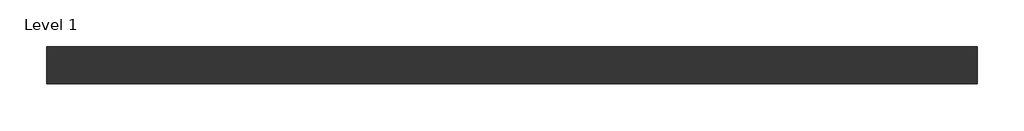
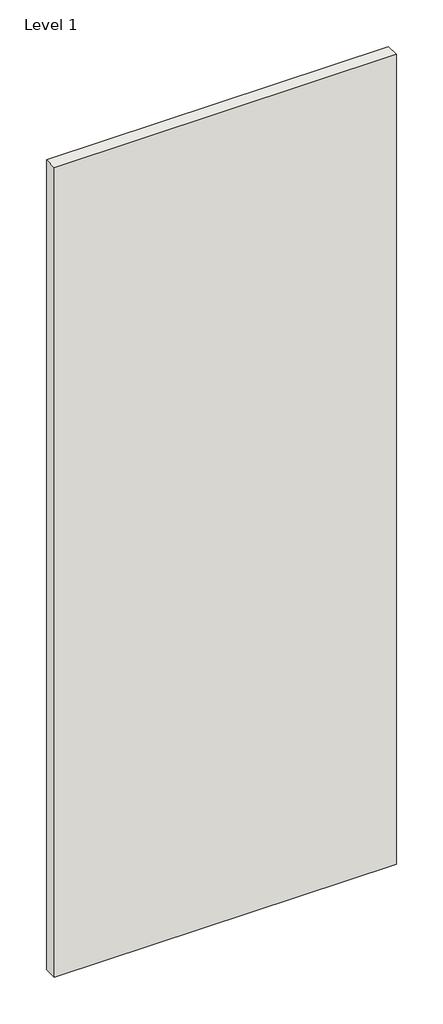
# One storey: 1 wall.
"""IFC4 building model written with IfcOpenShell, lengths in millimetres."""

import ifcopenshell
import ifcopenshell.guid

model = None  # the IFC model being written
_history = None  # IfcOwnerHistory: only IFC2X3 demands one
_inside = {}  # id of a spatial element -> (the spatial element, [elements in it])
_under = {}  # id of a project, library or spatial element -> (it, [spatial elements below it])
_declared = {}  # id of a project -> (the project, [libraries it declares])
_typed = {}  # id of a type object -> (the type object, [elements of that type])
_made_of = {}  # id of a material, layer set ... -> (it, [elements and type objects made of it])


def new_model(schema):
    """Start an empty IFC model of exactly this schema.

    Asked for "IFC4X3", IfcOpenShell would pick the latest addendum, in which some entities
    have other attributes; the version numbers below select the first issue.
    IFC2X3 requires an IfcOwnerHistory on every rooted entity: one is made here for all.
    """
    global model, _history
    if schema == "IFC4X3":
        model = ifcopenshell.file(schema_version=(4, 3, 0, 0))
    else:
        model = ifcopenshell.file(schema=schema)
    _inside.clear()
    _under.clear()
    _declared.clear()
    _typed.clear()
    _made_of.clear()
    _history = None
    if model.schema == "IFC2X3":
        org = make("IfcOrganization", Name="unknown")
        user = make(
            "IfcPersonAndOrganization",
            ThePerson=make("IfcPerson", FamilyName="unknown"),
            TheOrganization=org,
        )
        app = make(
            "IfcApplication",
            ApplicationDeveloper=org,
            Version="unknown",
            ApplicationFullName="unknown",
            ApplicationIdentifier="unknown",
        )
        _history = make(
            "IfcOwnerHistory",
            OwningUser=user,
            OwningApplication=app,
            ChangeAction="ADDED",
            CreationDate=0,
        )
    return model


def make(cls, **values):
    """One entity of the class cls with the attributes given. An attribute that is None is left unset."""
    return model.create_entity(
        cls, **{name: value for name, value in values.items() if value is not None}
    )


def rooted(cls, **values):
    """An entity with a GlobalId (a new one), such as an element, a storey or a relation."""
    return make(cls, GlobalId=ifcopenshell.guid.new(), OwnerHistory=_history, **values)


def si_unit(unit_type, name, prefix=None):
    """IfcSIUnit, for example si_unit("LENGTHUNIT", "METRE", prefix="MILLI")."""
    return make("IfcSIUnit", UnitType=unit_type, Prefix=prefix, Name=name)


def assignment(units):
    """IfcUnitAssignment: the units of a project."""
    return None if units is None else make("IfcUnitAssignment", Units=units)


def point(xyz):
    """IfcCartesianPoint."""
    return None if xyz is None else make("IfcCartesianPoint", Coordinates=xyz)


def direction(xyz):
    """IfcDirection."""
    return None if xyz is None else make("IfcDirection", DirectionRatios=xyz)


def frame(location, z_axis=None, x_axis=None):
    """IfcAxis2Placement3D, a coordinate frame: its origin and axes. An axis left out is left unset."""
    return make(
        "IfcAxis2Placement3D",
        Location=point(location),
        Axis=direction(z_axis),
        RefDirection=direction(x_axis),
    )


def origin():
    """The frame at (0, 0, 0) with its axes left unset."""
    return frame((0.0, 0.0, 0.0))


def origin_with_axes():
    """The frame at (0, 0, 0) with the z axis (0, 0, 1) and the x axis (1, 0, 0) written out."""
    return frame((0.0, 0.0, 0.0), z_axis=(0.0, 0.0, 1.0), x_axis=(1.0, 0.0, 0.0))


def place(relative_to, where):
    """IfcLocalPlacement: puts the frame where relative to a parent placement (None: the world)."""
    return make(
        "IfcLocalPlacement", PlacementRelTo=relative_to, RelativePlacement=where
    )


def context(
    kind, dimensions, precision=None, world=None, true_north=None, identifier=None
):
    """IfcGeometricRepresentationContext, for example the 3D "Model" context."""
    return make(
        "IfcGeometricRepresentationContext",
        ContextIdentifier=identifier,
        ContextType=kind,
        CoordinateSpaceDimension=dimensions,
        Precision=precision,
        WorldCoordinateSystem=world,
        TrueNorth=true_north,
    )


def project(units=None, contexts=None):
    """IfcProject with its units and contexts."""
    return rooted(
        "IfcProject",
        Name="project",
        RepresentationContexts=contexts,
        UnitsInContext=assignment(units),
    )


def spatial(cls, under=None, at=None, **own):
    """A site, building, storey or space (cls), placed at a placement, below another one or the project."""
    s = rooted(cls, ObjectPlacement=at, **own)
    if under is not None:
        _under.setdefault(under.id(), (under, []))[1].append(s)
    return s


def polyline(points):
    """IfcPolyline through the points."""
    return make("IfcPolyline", Points=[point(p) for p in points])


def outline(outer, holes=None, kind="AREA"):
    """IfcArbitraryClosedProfileDef: a profile drawn as a closed curve; with holes, ...WithVoids."""
    if holes is None:
        return make("IfcArbitraryClosedProfileDef", ProfileType=kind, OuterCurve=outer)
    return make(
        "IfcArbitraryProfileDefWithVoids",
        ProfileType=kind,
        OuterCurve=outer,
        InnerCurves=holes,
    )


def extrude(swept, where, along, depth):
    """IfcExtrudedAreaSolid: the profile swept, set in the frame where, extruded along a direction by depth."""
    return make(
        "IfcExtrudedAreaSolid",
        SweptArea=swept,
        Position=where,
        ExtrudedDirection=direction(along),
        Depth=depth,
    )


def shape(context_of_items, identifier, shape_type, items):
    """IfcShapeRepresentation: the items that make up one representation, for example the "Body"."""
    return make(
        "IfcShapeRepresentation",
        ContextOfItems=context_of_items,
        RepresentationIdentifier=identifier,
        RepresentationType=shape_type,
        Items=items,
    )


def made_of(thing, what):
    """Note that an element or type object is made of a material, layer set ...; save() writes the relation."""
    if what is not None:
        _made_of.setdefault(what.id(), (what, []))[1].append(thing)
    return thing


def element(
    cls,
    number,
    at=None,
    inside=None,
    cuts=None,
    type_object=None,
    material=None,
    context=None,
    identifier="Body",
    shape_type=None,
    held_by="IfcProductDefinitionShape",
    body=None,
    shapes=None,
    **own,
):
    """One element of the class cls, such as IfcWall. Its Tag is "e" and its number.

    at: its placement. inside: the storey or other place that contains it. cuts: it is an
    opening in that element (IfcRelVoidsElement). A single representation is given by context,
    identifier, shape_type and body (its items); several are given by shapes. held_by: the class
    of the entity that holds the representations. save() writes the other relations.
    """
    e = rooted(cls, Tag="e%d" % number, ObjectPlacement=at, **own)
    if body is not None:
        shapes = [shape(context, identifier, shape_type, body)]
    if shapes is not None:
        e.Representation = make(held_by, Representations=shapes)
    if inside is not None:
        _inside.setdefault(inside.id(), (inside, []))[1].append(e)
    if cuts is not None:
        rooted(
            "IfcRelVoidsElement", RelatingBuildingElement=cuts, RelatedOpeningElement=e
        )
    if type_object is not None:
        _typed.setdefault(type_object.id(), (type_object, []))[1].append(e)
    return made_of(e, material)


def aggregate(whole, parts):
    """IfcRelAggregates: a whole, such as a stair, and the parts it consists of."""
    return rooted("IfcRelAggregates", RelatingObject=whole, RelatedObjects=parts)


def save(model, path):
    """Write the relations noted so far, then the file.

    IfcRelAggregates (storeys below a building ...), IfcRelContainedInSpatialStructure (elements
    in a storey), IfcRelDefinesByType, IfcRelAssociatesMaterial and IfcRelDeclares: one each for
    every whole, place, type object, material and project.
    """
    for whole, parts in _under.values():
        aggregate(whole, parts)
    for where, things in _inside.values():
        rooted(
            "IfcRelContainedInSpatialStructure",
            RelatedElements=things,
            RelatingStructure=where,
        )
    for kind, things in _typed.values():
        rooted("IfcRelDefinesByType", RelatedObjects=things, RelatingType=kind)
    for what, things in _made_of.values():
        rooted("IfcRelAssociatesMaterial", RelatedObjects=things, RelatingMaterial=what)
    for by, libraries in _declared.values():
        rooted("IfcRelDeclares", RelatingContext=by, RelatedDefinitions=libraries)
    model.write(path)


model = new_model("IFC4")

# Units and contexts
model_context = context("Model", 3, world=origin())
ifc_project = project(units=[si_unit("LENGTHUNIT", "METRE", prefix="MILLI")], contexts=[model_context])

# Site, building, storey
site = spatial("IfcSite", under=ifc_project)
building = spatial("IfcBuilding", under=site)
storey = spatial("IfcBuildingStorey", under=building, Name="Level 1", Elevation=0.0)

# Wall
placement = place(None, origin())
element("IfcWall", 1, ObjectType="RIGIPS - 3.21.30 - EI 30, REI 30", at=placement, inside=storey, context=model_context, shape_type="SweptSolid", body=[
    extrude(outline(polyline([(1000.0, -20.0), (0.0, -20.0), (0.0, 20.0), (1000.0, 20.0), (1000.0, -20.0)])), origin_with_axes(), (0.0, 0.0, 1.0), 2500.0),
])

save(model, "model.ifc")
